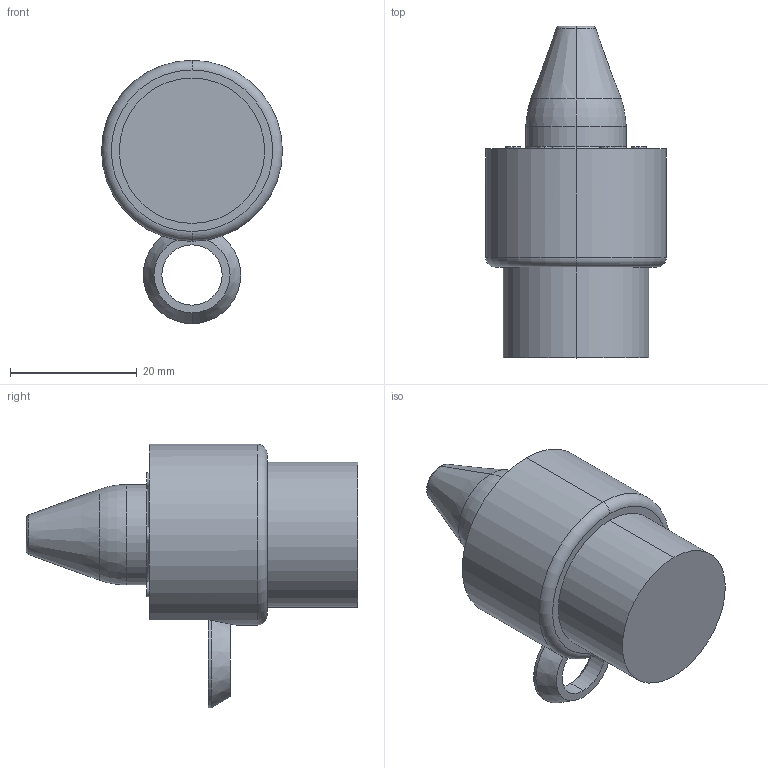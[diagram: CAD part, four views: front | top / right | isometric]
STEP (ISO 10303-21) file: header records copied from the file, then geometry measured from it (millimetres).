
FILE_DESCRIPTION (( 'STEP AP214' ), '1' );
FILE_NAME ('PA-.625-.125-P-F1.stp', '2020-05-01T17:51:30', ( '' ), ( '' ), 'SwSTEP 2.0', 'SolidWorks 2017', '' );
FILE_SCHEMA (( 'AUTOMOTIVE_DESIGN' ));
Length unit declared in the file: inch
Products named in the file (1): PA-.625-.125-P-F1
Bounding box: 28.57 x 52.45 x 41.62 mm (x, y, z)
Volume: 20485.8 mm3; surface area: 4967.5 mm2
Topology: 2 solids, 2 shells, 52 faces, 105 edges, 65 vertices
Faces by surface type: cylinder 23, plane 12, torus 9, cone 8
Entity records: 1462 total; most frequent: DIRECTION 277, CARTESIAN_POINT 259, ORIENTED_EDGE 210, AXIS2_PLACEMENT_3D 123, EDGE_CURVE 105, CIRCLE 70, VERTEX_POINT 65, EDGE_LOOP 62
